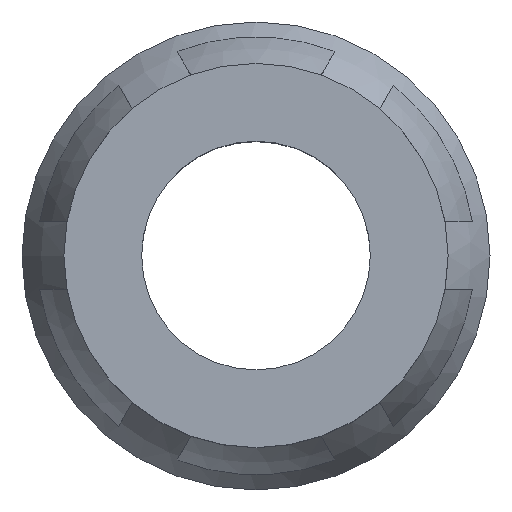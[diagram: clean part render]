
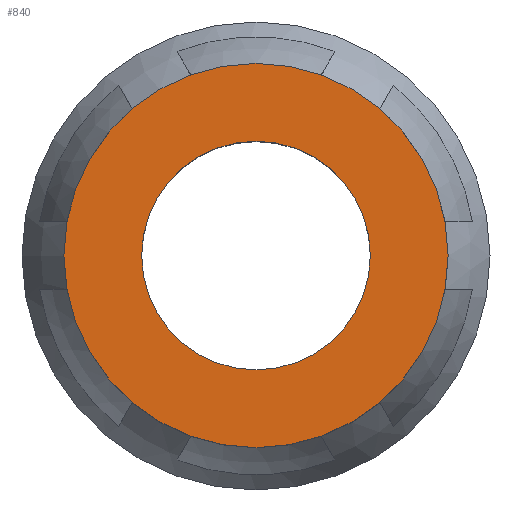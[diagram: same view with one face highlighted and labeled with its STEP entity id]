
A CAD part, top view. The second image highlights one B-rep face of the part: STEP entity #840.
In plain terms, the highlighted planar face has unit normal (0, 0, 1).
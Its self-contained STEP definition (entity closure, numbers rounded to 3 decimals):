
#1 = FACE_OUTER_BOUND ( 'NONE', #616, .T. ) ;
#43 = AXIS2_PLACEMENT_3D ( 'NONE', #799, #880, #309 ) ;
#98 = EDGE_CURVE ( 'NONE', #820, #820, #544, .T. ) ;
#103 = DIRECTION ( 'NONE',  ( 0., 0., 1. ) ) ;
#153 = CARTESIAN_POINT ( 'NONE',  ( 11.503, 0., -16.003 ) ) ;
#182 = AXIS2_PLACEMENT_3D ( 'NONE', #634, #103, #487 ) ;
#196 = FACE_BOUND ( 'NONE', #257, .T. ) ;
#257 = EDGE_LOOP ( 'NONE', ( #315 ) ) ;
#309 = DIRECTION ( 'NONE',  ( 1., 0., 0. ) ) ;
#315 = ORIENTED_EDGE ( 'NONE', *, *, #98, .T. ) ;
#320 = CARTESIAN_POINT ( 'NONE',  ( 9.23, 0., -16.003 ) ) ;
#412 = CARTESIAN_POINT ( 'NONE',  ( 10.583, 0., -16.003 ) ) ;
#444 = DIRECTION ( 'NONE',  ( 1., 0., 0. ) ) ;
#448 = VERTEX_POINT ( 'NONE', #153 ) ;
#466 = AXIS2_PLACEMENT_3D ( 'NONE', #320, #587, #444 ) ;
#487 = DIRECTION ( 'NONE',  ( 1., 0., 0. ) ) ;
#544 = CIRCLE ( 'NONE', #43, 1.353 ) ;
#587 = DIRECTION ( 'NONE',  ( 0., 0., 1. ) ) ;
#616 = EDGE_LOOP ( 'NONE', ( #732 ) ) ;
#634 = CARTESIAN_POINT ( 'NONE',  ( 9.23, 0., -16.003 ) ) ;
#732 = ORIENTED_EDGE ( 'NONE', *, *, #738, .T. ) ;
#738 = EDGE_CURVE ( 'NONE', #448, #448, #784, .T. ) ;
#764 = PLANE ( 'NONE',  #466 ) ;
#784 = CIRCLE ( 'NONE', #182, 2.273 ) ;
#799 = CARTESIAN_POINT ( 'NONE',  ( 9.23, 0., -16.003 ) ) ;
#820 = VERTEX_POINT ( 'NONE', #412 ) ;
#840 = ADVANCED_FACE ( 'NONE', ( #196, #1 ), #764, .T. ) ;
#880 = DIRECTION ( 'NONE',  ( 0., 0., -1. ) ) ;
